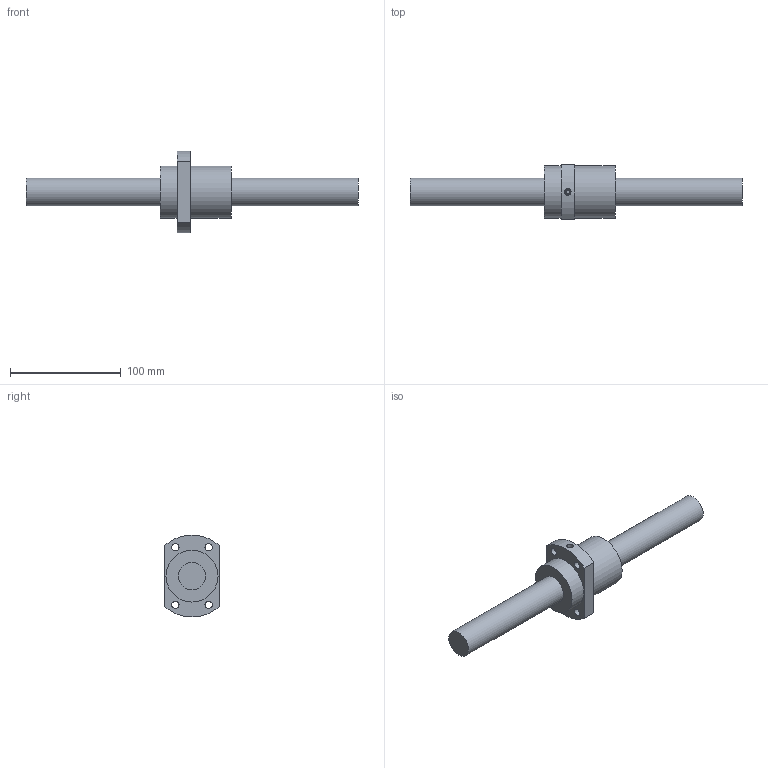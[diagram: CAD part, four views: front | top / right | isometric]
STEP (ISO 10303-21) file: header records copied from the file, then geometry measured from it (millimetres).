
FILE_DESCRIPTION((''),'2;1');
FILE_NAME('C:\Documents and Settings\土屋\My Documents\土屋移動用フォルダ\製品 (図面3D用)\カタログ用3D\ネジ\BSD-A\BSD2525A.stp','2018-12-15T09:52:37',('y'),(''),'Autodesk Inventor 11','Autodesk Inventor 11','');
FILE_SCHEMA(('AUTOMOTIVE_DESIGN { 1 0 10303 214 1 1 1 1 }'));
Length unit declared in the file: millimetre
Products named in the file (3): BSD2525A; BSD25ネジ軸
Assembly tree (2 placements, depth 2):
  BSD2525A
    BSD25ネジ軸
    BSD2525A
Bounding box: 300 x 49 x 73.88 mm (x, y, z)
Volume: 244260.9 mm3; surface area: 46475 mm2
Topology: 2 solids, 2 shells, 23 faces, 45 edges, 30 vertices
Faces by surface type: plane 10, cylinder 8, bspline 4, cone 1
Full cylindrical faces by diameter (mm): 3 x1, 6 x1, 25 x2, 47 x2
Entity records: 758 total; most frequent: CARTESIAN_POINT 226, DIRECTION 104, ORIENTED_EDGE 68, AXIS2_PLACEMENT_3D 48, EDGE_LOOP 48, EDGE_CURVE 34, VERTEX_POINT 30, FACE_BOUND 25
